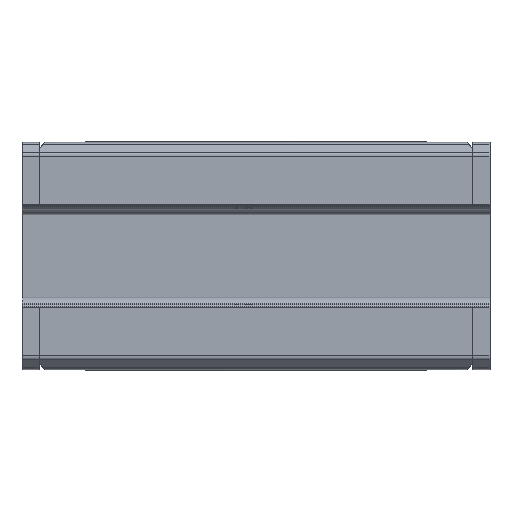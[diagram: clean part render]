
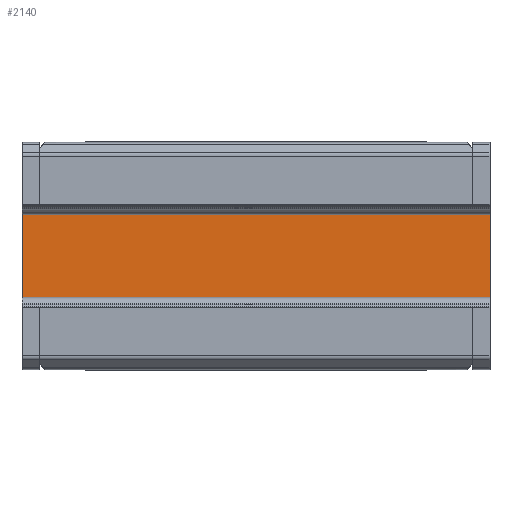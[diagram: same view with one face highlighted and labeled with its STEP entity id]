
A CAD part, front view. The second image highlights one B-rep face of the part: STEP entity #2140.
In plain terms, the highlighted planar face has unit normal (0, -1, 0).
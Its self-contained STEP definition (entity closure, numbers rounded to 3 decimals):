
#656=ORIENTED_EDGE('',*,*,#916,.F.);
#657=ORIENTED_EDGE('',*,*,#1038,.F.);
#658=ORIENTED_EDGE('',*,*,#881,.T.);
#659=ORIENTED_EDGE('',*,*,#1039,.T.);
#881=EDGE_CURVE('',#1159,#1158,#1376,.T.);
#916=EDGE_CURVE('',#1188,#1189,#1389,.T.);
#1038=EDGE_CURVE('',#1159,#1188,#1470,.T.);
#1039=EDGE_CURVE('',#1158,#1189,#1471,.T.);
#1158=VERTEX_POINT('',#3273);
#1159=VERTEX_POINT('',#3275);
#1188=VERTEX_POINT('',#3339);
#1189=VERTEX_POINT('',#3341);
#1376=LINE('',#3274,#1594);
#1389=LINE('',#3340,#1607);
#1470=LINE('',#3581,#1688);
#1471=LINE('',#3583,#1689);
#1594=VECTOR('',#2584,1000.);
#1607=VECTOR('',#2643,1000.);
#1688=VECTOR('',#2922,1000.);
#1689=VECTOR('',#2925,1000.);
#1792=EDGE_LOOP('',(#656,#657,#658,#659));
#1928=FACE_BOUND('',#1792,.T.);
#2039=PLANE('',#2349);
#2140=ADVANCED_FACE('',(#1928),#2039,.T.);
#2349=AXIS2_PLACEMENT_3D('',#3582,#2923,#2924);
#2584=DIRECTION('',(0.,0.,1.));
#2643=DIRECTION('',(0.,0.,1.));
#2922=DIRECTION('',(-1.,0.,0.));
#2923=DIRECTION('',(0.,-1.,0.));
#2924=DIRECTION('',(0.,0.,-1.));
#2925=DIRECTION('',(-1.,0.,0.));
#3273=CARTESIAN_POINT('',(20.4,4.,3.9));
#3274=CARTESIAN_POINT('',(20.4,4.,-3.9));
#3275=CARTESIAN_POINT('',(20.4,4.,-3.9));
#3339=CARTESIAN_POINT('',(-20.4,4.,-3.9));
#3340=CARTESIAN_POINT('',(-20.4,4.,-3.9));
#3341=CARTESIAN_POINT('',(-20.4,4.,3.9));
#3581=CARTESIAN_POINT('',(20.4,4.,-3.9));
#3582=CARTESIAN_POINT('',(20.4,4.,-3.9));
#3583=CARTESIAN_POINT('',(20.4,4.,3.9));
